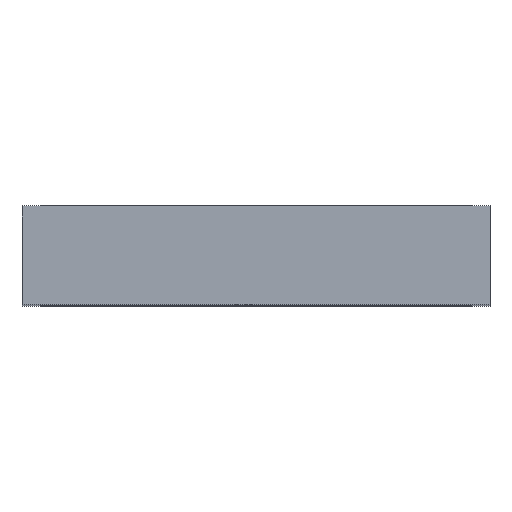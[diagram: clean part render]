
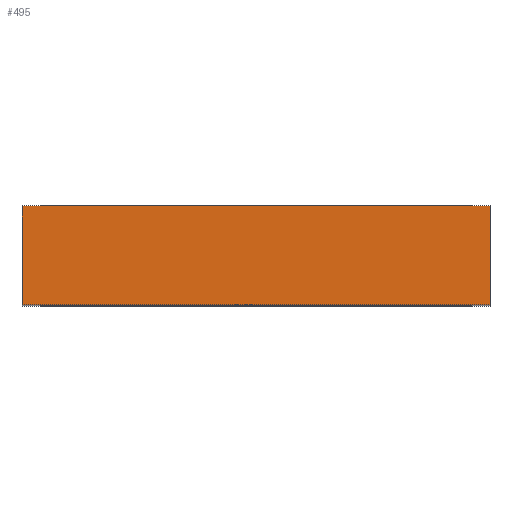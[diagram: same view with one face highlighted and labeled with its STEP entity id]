
A CAD part, top view. The second image highlights one B-rep face of the part: STEP entity #495.
In plain terms, the highlighted planar face has unit normal (0, 0, 1).
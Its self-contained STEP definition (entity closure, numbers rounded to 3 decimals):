
#25 = CARTESIAN_POINT ( 'NONE',  ( -154., 0., 264.5 ) ) ;
#27 = CARTESIAN_POINT ( 'NONE',  ( -154., 65., 264.5 ) ) ;
#38 = VERTEX_POINT ( 'NONE', #25 ) ;
#40 = VERTEX_POINT ( 'NONE', #27 ) ;
#42 = VERTEX_POINT ( 'NONE', #138 ) ;
#81 = CARTESIAN_POINT ( 'NONE',  ( 154., 0., 264.5 ) ) ;
#138 = CARTESIAN_POINT ( 'NONE',  ( 154., 65., 264.5 ) ) ;
#155 = VERTEX_POINT ( 'NONE', #81 ) ;
#238 = CARTESIAN_POINT ( 'NONE',  ( -154., 0., 264.5 ) ) ;
#242 = CARTESIAN_POINT ( 'NONE',  ( -154., 65., 264.5 ) ) ;
#243 = DIRECTION ( 'NONE',  ( 1., 0., 0. ) ) ;
#251 = DIRECTION ( 'NONE',  ( 1., 0., 0. ) ) ;
#262 = CARTESIAN_POINT ( 'NONE',  ( 154., 65., 264.5 ) ) ;
#266 = DIRECTION ( 'NONE',  ( 0., -1., 0. ) ) ;
#273 = CARTESIAN_POINT ( 'NONE',  ( -154., 65., 264.5 ) ) ;
#274 = DIRECTION ( 'NONE',  ( 0., -1., 0. ) ) ;
#409 = EDGE_CURVE ( 'NONE', #40, #42, #796, .T. ) ;
#413 = EDGE_CURVE ( 'NONE', #38, #155, #775, .T. ) ;
#420 = EDGE_CURVE ( 'NONE', #42, #155, #805, .T. ) ;
#424 = EDGE_CURVE ( 'NONE', #40, #38, #826, .T. ) ;
#461 = AXIS2_PLACEMENT_3D ( 'NONE', #527, #533, #534 ) ;
#495 = ADVANCED_FACE ( 'NONE', ( #862 ), #516, .F. ) ;
#516 = PLANE ( 'NONE',  #461 ) ;
#527 = CARTESIAN_POINT ( 'NONE',  ( -154., 65., 264.5 ) ) ;
#533 = DIRECTION ( 'NONE',  ( 0., 0., -1. ) ) ;
#534 = DIRECTION ( 'NONE',  ( -1., 0., 0. ) ) ;
#629 = ORIENTED_EDGE ( 'NONE', *, *, #413, .T. ) ;
#630 = ORIENTED_EDGE ( 'NONE', *, *, #420, .F. ) ;
#631 = ORIENTED_EDGE ( 'NONE', *, *, #409, .F. ) ;
#632 = ORIENTED_EDGE ( 'NONE', *, *, #424, .T. ) ;
#775 = LINE ( 'NONE', #238, #804 ) ;
#796 = LINE ( 'NONE', #242, #797 ) ;
#797 = VECTOR ( 'NONE', #243, 1000. ) ;
#804 = VECTOR ( 'NONE', #251, 1000. ) ;
#805 = LINE ( 'NONE', #262, #818 ) ;
#818 = VECTOR ( 'NONE', #266, 1000. ) ;
#826 = LINE ( 'NONE', #273, #827 ) ;
#827 = VECTOR ( 'NONE', #274, 1000. ) ;
#862 = FACE_OUTER_BOUND ( 'NONE', #915, .T. ) ;
#915 = EDGE_LOOP ( 'NONE', ( #629, #630, #631, #632 ) ) ;
